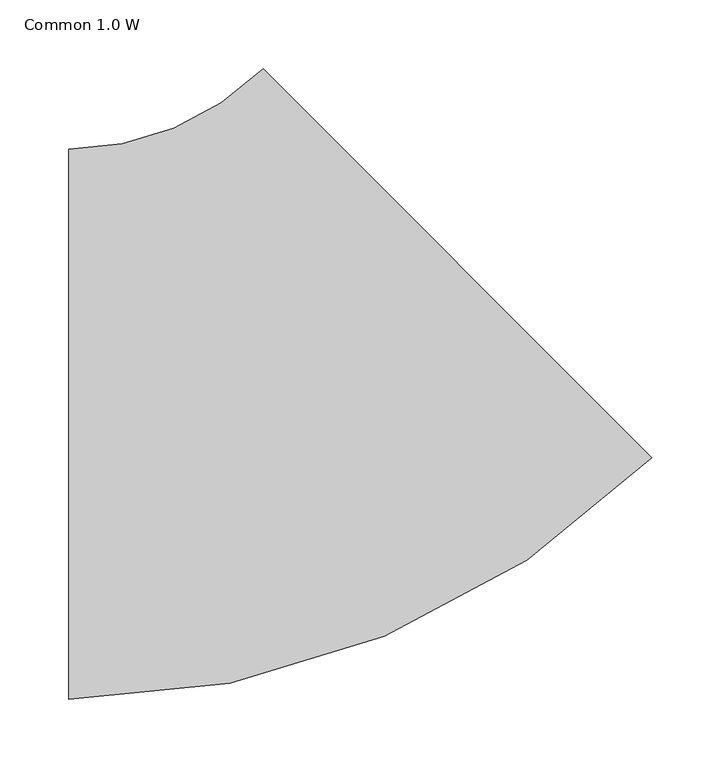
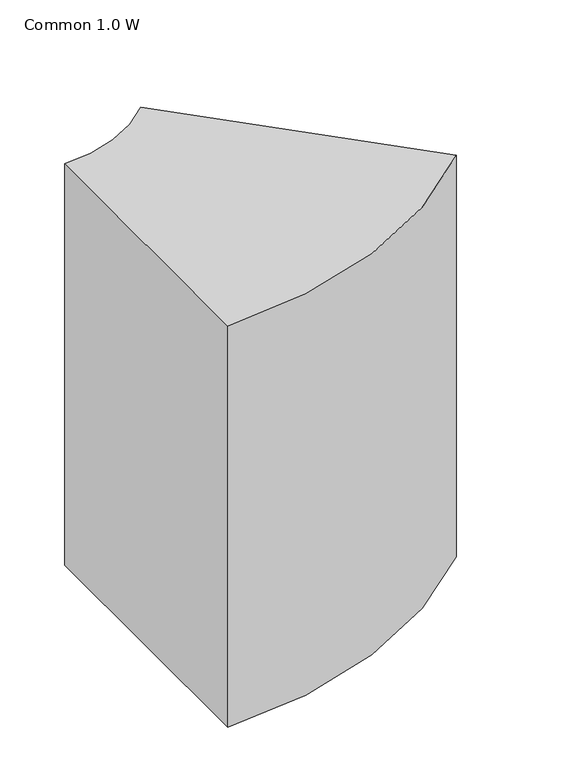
"""IFC4 building model written with IfcOpenShell, lengths in millimetres: duct fitting geometry, 011_角型エルボ - 半径 : Common 1.0 W."""

from ifc_helpers import new_model, si_unit, point, frame, frame_2d, origin, place, context, project, spatial, polyline, circle_curve, trimmed, segment, composite_curve, outline, extrude, source, transform, mapped, element, save


def common_1_0_w_f1e48291(model_context):
    return source(origin(), model_context, "Body", "SweptSolid", [
        extrude(outline(composite_curve([segment(trimmed(circle_curve(frame_2d((-165.6854249, 400.0)), 600.0), [point((258.5786438, -24.2640687))], [point((-165.6854249, -200.0))], False, "CARTESIAN"), True, "CONTINUOUS"), segment(polyline([(-165.6854249, -200.0), (-165.6854249, 200.0)]), True, "CONTINUOUS"), segment(trimmed(circle_curve(frame_2d((-165.6854249, 400.0)), 200.0), [point((-165.6854249, 200.0))], [point((-24.2640687, 258.5786438))], True, "CARTESIAN"), True, "CONTINUOUS"), segment(polyline([(-24.2640687, 258.5786438), (258.5786438, -24.2640687)]), True, "CONTINUOUS")], self_intersect=False)), frame((0.0, 0.0, -300.0), z_axis=(0.0, 0.0, 1.0), x_axis=(1.0, 0.0, 0.0)), (0.0, 0.0, 1.0), 600.0),
    ])


if __name__ == "__main__":
    model = new_model("IFC4")
    model_context = context("Model", 3, world=origin())
    ifc_project = project(units=[si_unit("LENGTHUNIT", "METRE", prefix="MILLI")], contexts=[model_context])
    site = spatial("IfcSite", under=ifc_project)
    building = spatial("IfcBuilding", under=site)
    placement = place(None, origin())
    common_1_0_w_shape = common_1_0_w_f1e48291(model_context)
    element("IfcDuctFitting", 1, ObjectType="011_角型エルボ - 半径 : Common 1.0 W", at=placement, inside=building, context=model_context, shape_type="MappedRepresentation", body=[
        mapped(common_1_0_w_shape, transform((0.0, 0.0, 0.0), x_axis=(1.0, 0.0, 0.0), y_axis=(0.0, 1.0, 0.0), z_axis=(0.0, 0.0, 1.0))),
    ])
    save(model, "model.ifc")
